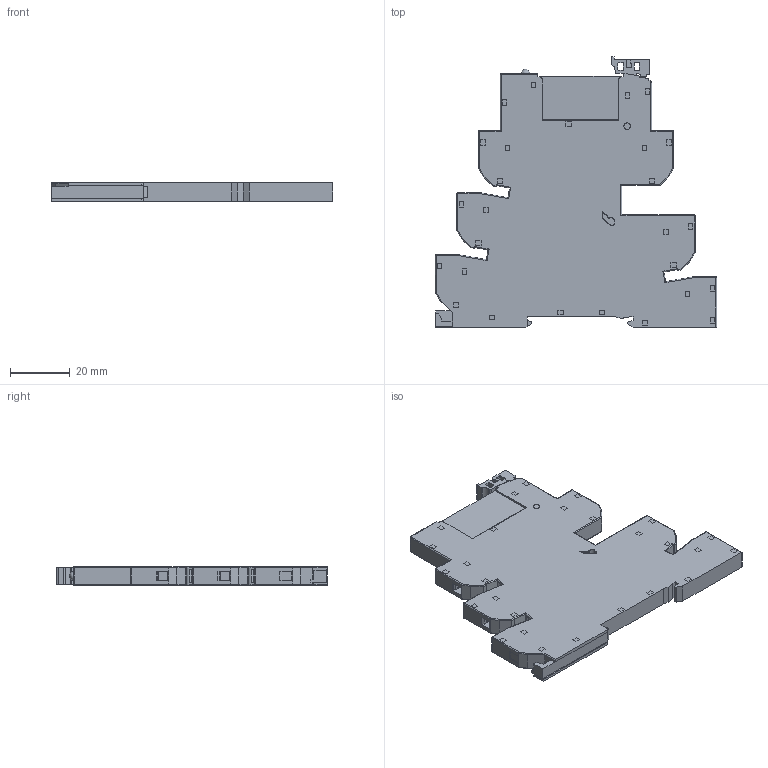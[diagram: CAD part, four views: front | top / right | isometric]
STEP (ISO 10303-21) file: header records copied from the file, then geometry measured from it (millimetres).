
FILE_DESCRIPTION(('STEP AP214'),'2;1');
FILE_NAME('3931=3451+9363.stp','2010-10-02T09:09:30',(''),(''),'2007.1.106','THINKDESIGN','');
FILE_SCHEMA(('AUTOMOTIVE_DESIGN'));
Products named in the file (1): None
Bounding box: 94.25 x 90.7 x 6.2 mm (x, y, z)
Surface area: 17912.3 mm2 (no closed solid volume)
Topology: 0 solids, 0 shells, 1003 faces, 5894 edges, 5877 vertices
Faces by surface type: plane 818, cylinder 159, bspline 26
Full cylindrical faces by diameter (mm): 1.5 x5, 2.2 x2, 2.798 x5, 3.9 x5, 4.299 x5
Entity records: 57800 total; most frequent: CARTESIAN_POINT 14620, DIRECTION 7667, COMPOSITE_CURVE_SEGMENT 5879, TRIMMED_CURVE 5451, VECTOR 5189, LINE 5189, AXIS2_PLACEMENT_3D 1239, OUTER_BOUNDARY_CURVE 1003
